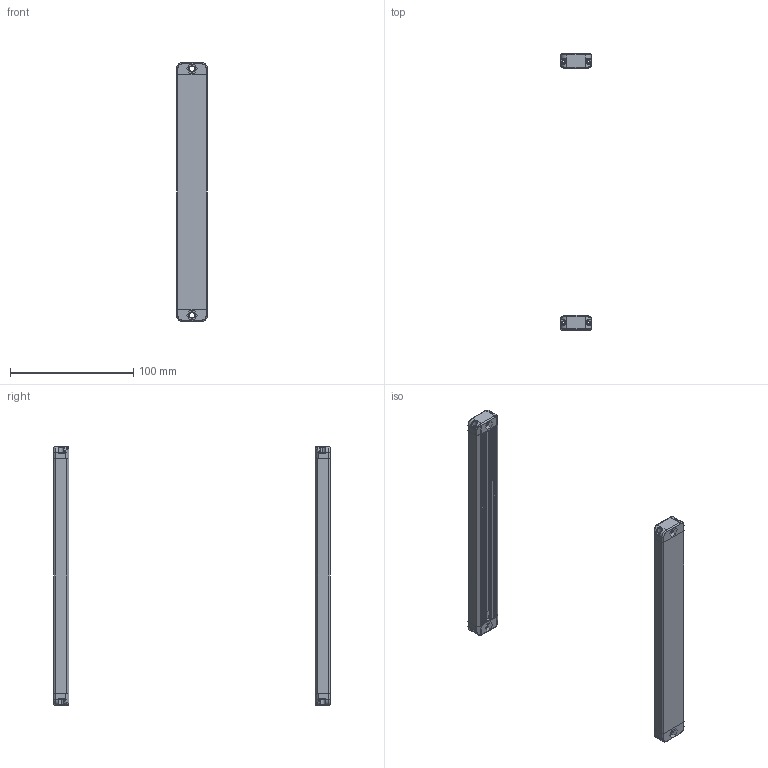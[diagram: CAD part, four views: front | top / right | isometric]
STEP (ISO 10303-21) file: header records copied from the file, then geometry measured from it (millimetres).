
FILE_DESCRIPTION (( 'STEP AP203' ), '1' );
FILE_NAME ('ZDB1020-190.STEP', '2022-08-31T03:07:58', ( 'Windows 蚚誧' ), ( 'Organization' ), 'SwSTEP 2.0', 'SolidWorks 2020', '' );
FILE_SCHEMA (( 'CONFIG_CONTROL_DESIGN' ));
Length unit declared in the file: millimetre
Products named in the file (4): ZDB1020-190; 傷裔衵; 傷裔酘諉彶; 媼啃3臏倰第
Assembly tree (6 placements, depth 2):
  ZDB1020-190
    傷裔衵  x2
    傷裔酘諉彶  x2
    媼啃3臏倰第  x2
Bounding box: 25 x 224 x 210 mm (x, y, z)
Volume: 41782.9 mm3; surface area: 67326 mm2
Topology: 6 solids, 6 shells, 650 faces, 1758 edges, 1124 vertices
Faces by surface type: plane 406, cylinder 188, torus 32, bspline 16, sphere 8
Entity records: 11427 total; most frequent: CARTESIAN_POINT 2721, ORIENTED_EDGE 1750, DIRECTION 1687, EDGE_CURVE 875, VECTOR 631, LINE 631, VERTEX_POINT 562, AXIS2_PLACEMENT_3D 528
